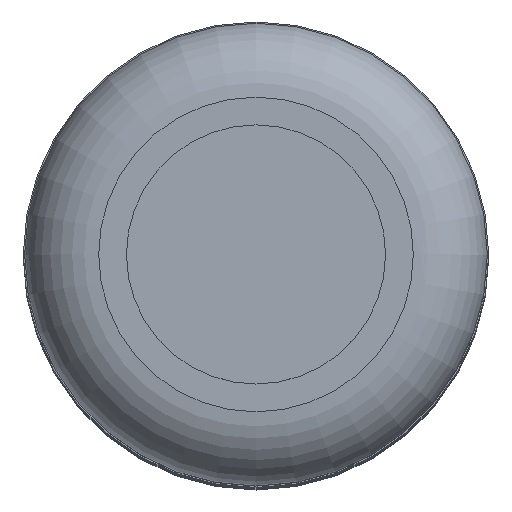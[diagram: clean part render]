
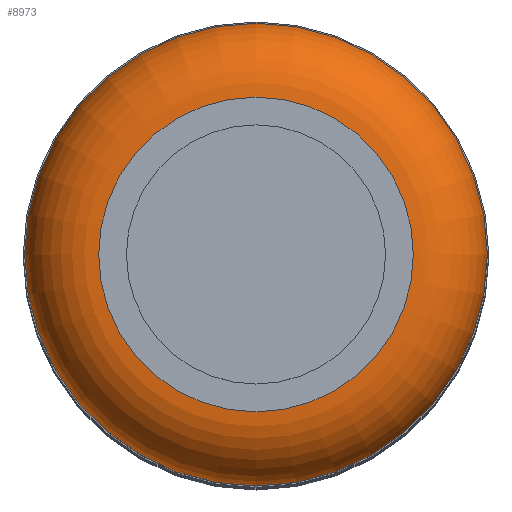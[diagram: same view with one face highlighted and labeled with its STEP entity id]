
A CAD part, top view. The second image highlights one B-rep face of the part: STEP entity #8973.
In plain terms, the highlighted toroidal (fillet/blend) face has major radius 17 mm and minor radius 8 mm.
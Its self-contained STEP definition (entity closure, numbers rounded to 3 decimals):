
#34=TOROIDAL_SURFACE('',#32101,17.,8.);
#8973=ADVANCED_FACE('',(#11173,#11174),#34,.T.);
#11173=FACE_BOUND('',#11364,.T.);
#11174=FACE_BOUND('',#11365,.T.);
#11364=EDGE_LOOP('',(#13170));
#11365=EDGE_LOOP('',(#13171));
#13170=ORIENTED_EDGE('',*,*,#25791,.F.);
#13171=ORIENTED_EDGE('',*,*,#25792,.F.);
#22598=VERTEX_POINT('',#47726);
#22599=VERTEX_POINT('',#47728);
#25791=EDGE_CURVE('',#22598,#22598,#30502,.T.);
#25792=EDGE_CURVE('',#22599,#22599,#30503,.T.);
#30502=CIRCLE('',#32099,25.);
#30503=CIRCLE('',#32100,17.);
#32099=AXIS2_PLACEMENT_3D('',#47725,#35326,#35327);
#32100=AXIS2_PLACEMENT_3D('',#47727,#35328,#35329);
#32101=AXIS2_PLACEMENT_3D('',#47729,#35330,#35331);
#35326=DIRECTION('',(0.,0.,-1.));
#35327=DIRECTION('',(1.,0.,0.));
#35328=DIRECTION('',(0.,0.,1.));
#35329=DIRECTION('',(1.,0.,0.));
#35330=DIRECTION('',(0.,0.,1.));
#35331=DIRECTION('',(1.,0.,0.));
#47725=CARTESIAN_POINT('',(0.,200.,200.5));
#47726=CARTESIAN_POINT('',(25.,200.,200.5));
#47727=CARTESIAN_POINT('',(0.,200.,208.5));
#47728=CARTESIAN_POINT('',(17.,200.,208.5));
#47729=CARTESIAN_POINT('',(0.,200.,200.5));
